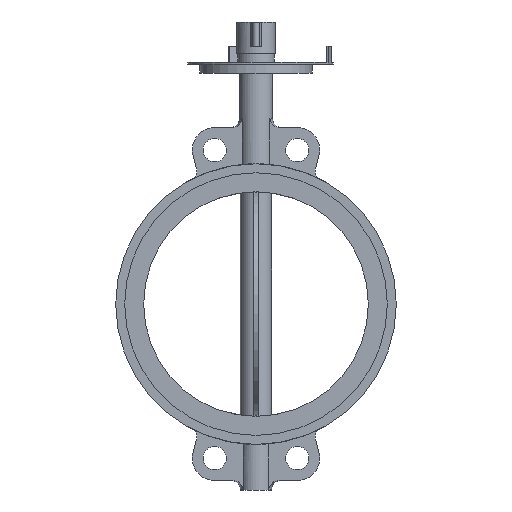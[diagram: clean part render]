
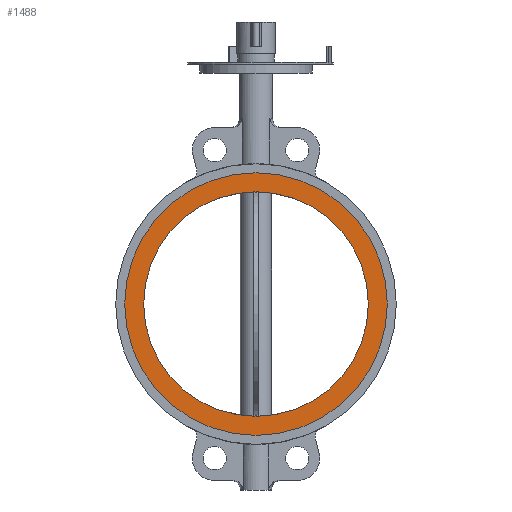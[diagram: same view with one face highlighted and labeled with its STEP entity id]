
A CAD part, left-side view. The second image highlights one B-rep face of the part: STEP entity #1488.
In plain terms, the highlighted planar face has unit normal (-1, 0, 0).
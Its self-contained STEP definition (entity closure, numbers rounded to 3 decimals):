
#1488=ADVANCED_FACE('',(#3012,#3014),#3016,.F.);
#3012=FACE_BOUND('',#3013,.T.);
#3013=EDGE_LOOP('',(#4136));
#3014=FACE_BOUND('',#3015,.T.);
#3015=EDGE_LOOP('',(#4137));
#3016=PLANE('',#3017);
#3017=AXIS2_PLACEMENT_3D('',#3018,#3019,#3020);
#3018=CARTESIAN_POINT('',(-33.,0.,0.));
#3019=DIRECTION('',(1.,0.,0.));
#3020=DIRECTION('',(0.,1.,0.));
#4136=ORIENTED_EDGE('',*,*,#4691,.T.);
#4137=ORIENTED_EDGE('',*,*,#4746,.T.);
#4691=EDGE_CURVE('',#5480,#5480,#5481,.F.);
#4746=EDGE_CURVE('',#5564,#5564,#5565,.T.);
#5480=VERTEX_POINT('',#8040);
#5481=CIRCLE('',#8041,146.2);
#5564=VERTEX_POINT('',#8247);
#5565=CIRCLE('',#8248,125.);
#8040=CARTESIAN_POINT('',(-33.,146.2,0.));
#8041=AXIS2_PLACEMENT_3D('',#8042,#8043,#8044);
#8042=CARTESIAN_POINT('',(-33.,0.,0.));
#8043=DIRECTION('',(1.,0.,0.));
#8044=DIRECTION('',(0.,1.,0.));
#8247=CARTESIAN_POINT('',(-33.,125.,0.));
#8248=AXIS2_PLACEMENT_3D('',#8249,#8250,#8251);
#8249=CARTESIAN_POINT('',(-33.,0.,0.));
#8250=DIRECTION('',(1.,0.,0.));
#8251=DIRECTION('',(0.,1.,0.));
